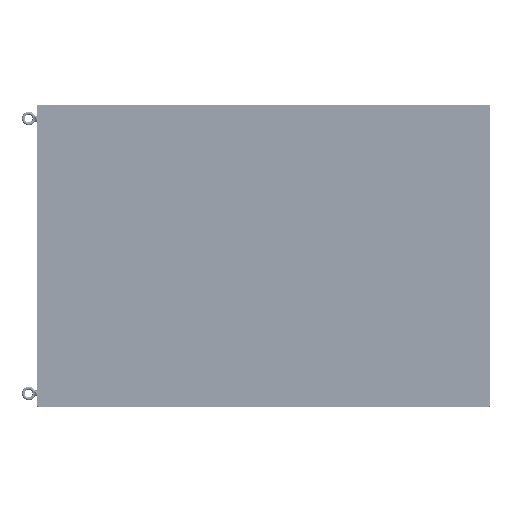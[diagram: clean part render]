
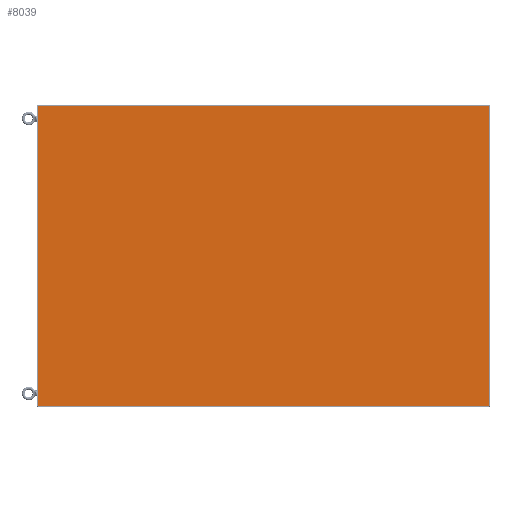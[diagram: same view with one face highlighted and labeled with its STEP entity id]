
A CAD part, front view. The second image highlights one B-rep face of the part: STEP entity #8039.
In plain terms, the highlighted planar face has unit normal (0, -1, 0).
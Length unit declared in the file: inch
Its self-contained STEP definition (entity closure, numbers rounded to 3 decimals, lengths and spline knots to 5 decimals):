
#7808=CARTESIAN_POINT('',(-35.314,0.,-23.503));
#7809=DIRECTION('',(0.,-1.,0.));
#7810=DIRECTION('',(-1.,0.,0.));
#7811=AXIS2_PLACEMENT_3D('',#7808,#7809,#7810);
#7816=DIRECTION('',(0.,0.,-1.));
#7817=VECTOR('',#7816,47.006);
#7818=CARTESIAN_POINT('',(-35.329,0.,23.503));
#7819=LINE('',#7818,#7817);
#7823=CARTESIAN_POINT('',(-35.314,0.,23.503));
#7824=DIRECTION('',(0.,-1.,0.));
#7825=DIRECTION('',(0.,0.,1.));
#7826=AXIS2_PLACEMENT_3D('',#7823,#7824,#7825);
#7831=CARTESIAN_POINT('',(35.314,0.,23.503));
#7832=DIRECTION('',(0.,-1.,0.));
#7833=DIRECTION('',(1.,0.,0.));
#7834=AXIS2_PLACEMENT_3D('',#7831,#7832,#7833);
#7839=CARTESIAN_POINT('',(35.314,0.,-23.503));
#7840=DIRECTION('',(0.,-1.,0.));
#7841=DIRECTION('',(0.,0.,-1.));
#7842=AXIS2_PLACEMENT_3D('',#7839,#7840,#7841);
#7854=DIRECTION('',(1.,0.,0.));
#7855=VECTOR('',#7854,70.628);
#7856=CARTESIAN_POINT('',(-35.314,0.,-23.518));
#7857=LINE('',#7856,#7855);
#7896=DIRECTION('',(0.,0.,-1.));
#7897=VECTOR('',#7896,47.006);
#7898=CARTESIAN_POINT('',(35.329,0.,23.503));
#7899=LINE('',#7898,#7897);
#7924=DIRECTION('',(1.,0.,0.));
#7925=VECTOR('',#7924,70.628);
#7926=CARTESIAN_POINT('',(-35.314,0.,23.518));
#7927=LINE('',#7926,#7925);
#7984=CARTESIAN_POINT('',(-35.329,0.,-23.503));
#7985=CARTESIAN_POINT('',(-35.314,0.,-23.518));
#7986=VERTEX_POINT('',#7984);
#7987=VERTEX_POINT('',#7985);
#7992=CARTESIAN_POINT('',(-35.314,0.,23.518));
#7993=CARTESIAN_POINT('',(-35.329,0.,23.503));
#7994=VERTEX_POINT('',#7992);
#7995=VERTEX_POINT('',#7993);
#8000=CARTESIAN_POINT('',(35.329,0.,23.503));
#8001=CARTESIAN_POINT('',(35.314,0.,23.518));
#8002=VERTEX_POINT('',#8000);
#8003=VERTEX_POINT('',#8001);
#8008=CARTESIAN_POINT('',(35.314,0.,-23.518));
#8009=CARTESIAN_POINT('',(35.329,0.,-23.503));
#8010=VERTEX_POINT('',#8008);
#8011=VERTEX_POINT('',#8009);
#8016=CARTESIAN_POINT('',(-35.329,0.,23.518));
#8017=DIRECTION('',(0.,-1.,0.));
#8018=DIRECTION('',(1.,0.,0.));
#8019=AXIS2_PLACEMENT_3D('',#8016,#8017,#8018);
#8020=PLANE('',#8019);
#8022=ORIENTED_EDGE('',*,*,#8021,.F.);
#8024=ORIENTED_EDGE('',*,*,#8023,.F.);
#8026=ORIENTED_EDGE('',*,*,#8025,.F.);
#8028=ORIENTED_EDGE('',*,*,#8027,.T.);
#8030=ORIENTED_EDGE('',*,*,#8029,.F.);
#8032=ORIENTED_EDGE('',*,*,#8031,.T.);
#8034=ORIENTED_EDGE('',*,*,#8033,.F.);
#8036=ORIENTED_EDGE('',*,*,#8035,.F.);
#8037=EDGE_LOOP('',(#8022,#8024,#8026,#8028,#8030,#8032,#8034,#8036));
#8038=FACE_OUTER_BOUND('',#8037,.F.);
#7812=CIRCLE('',#7811,0.015);
#7827=CIRCLE('',#7826,0.015);
#7835=CIRCLE('',#7834,0.015);
#7843=CIRCLE('',#7842,0.015);
#8021=EDGE_CURVE('',#7986,#7987,#7812,.T.);
#8023=EDGE_CURVE('',#7995,#7986,#7819,.T.);
#8025=EDGE_CURVE('',#7994,#7995,#7827,.T.);
#8027=EDGE_CURVE('',#7994,#8003,#7927,.T.);
#8029=EDGE_CURVE('',#8002,#8003,#7835,.T.);
#8031=EDGE_CURVE('',#8002,#8011,#7899,.T.);
#8033=EDGE_CURVE('',#8010,#8011,#7843,.T.);
#8035=EDGE_CURVE('',#7987,#8010,#7857,.T.);
#8039=ADVANCED_FACE('',(#8038),#8020,.T.);
